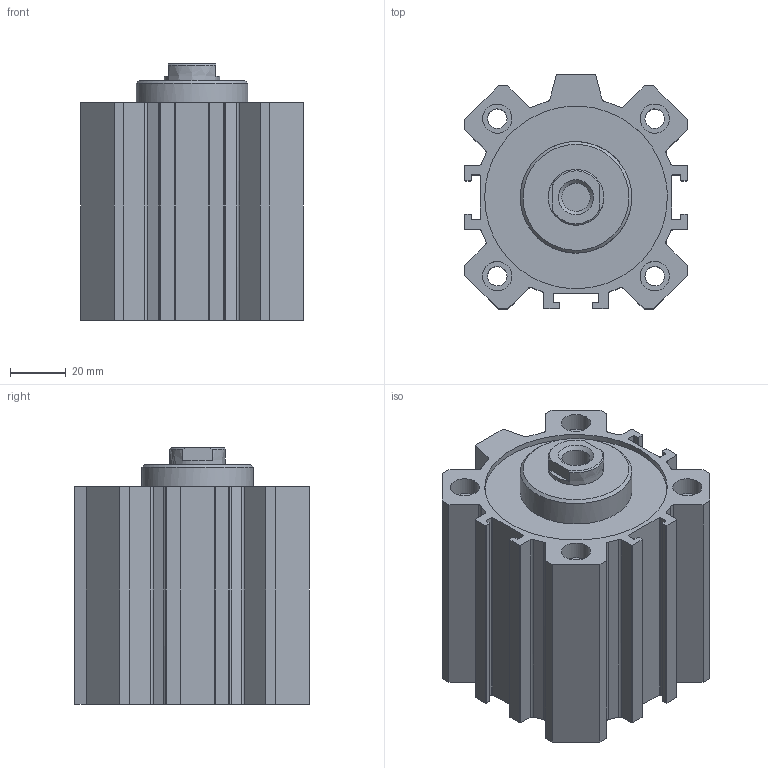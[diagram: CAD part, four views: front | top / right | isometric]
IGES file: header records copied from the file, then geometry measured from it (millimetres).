
Global section: file name: 1511_63_0035; native system: Autodesk Inventor 2014; preprocessor: unknown; author: A. Manieri; date: 20160824.140114; units: millimetre
Bounding box: 80 x 84 x 92 mm (x, y, z)
Volume: 306379.1 mm3; surface area: 82960.3 mm2
Topology: 2 solids, 2 shells, 165 faces, 443 edges, 300 vertices
Faces by surface type: bspline 165
